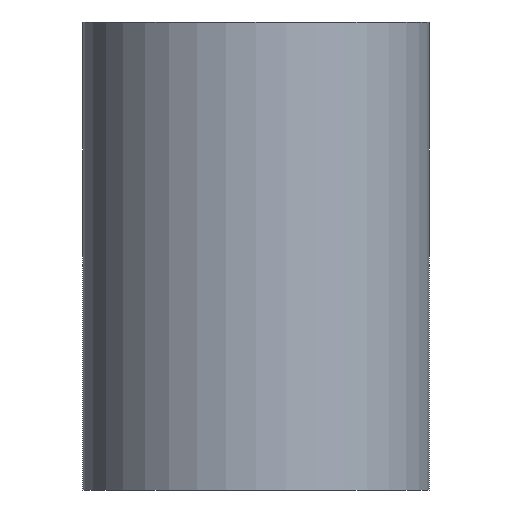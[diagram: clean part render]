
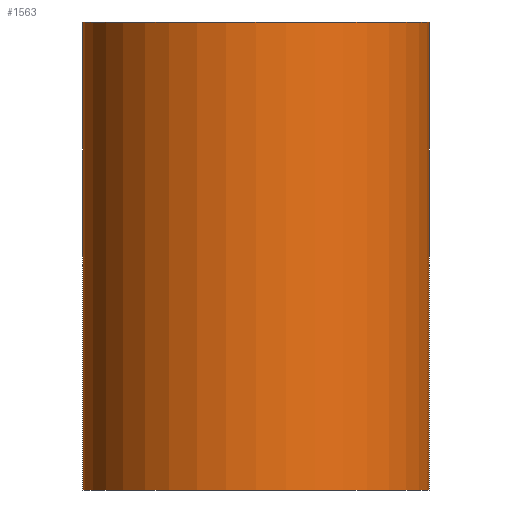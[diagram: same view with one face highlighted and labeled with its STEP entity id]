
A CAD part, front view. The second image highlights one B-rep face of the part: STEP entity #1563.
In plain terms, the highlighted cylindrical face has radius 18.5 mm (diameter 37 mm), a full revolution.
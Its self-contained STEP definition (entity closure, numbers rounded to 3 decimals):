
#26=CYLINDRICAL_SURFACE('',#1688,18.5);
#39=FACE_BOUND('',#240,.T.);
#58=CIRCLE('',#1671,18.5);
#59=CIRCLE('',#1674,18.5);
#66=CIRCLE('',#1689,18.5);
#67=CIRCLE('',#1690,18.5);
#146=FACE_OUTER_BOUND('',#239,.T.);
#239=EDGE_LOOP('',(#1339,#1340,#1341,#1342));
#240=EDGE_LOOP('',(#1343,#1344,#1345,#1346));
#413=LINE('',#2466,#592);
#418=LINE('',#2477,#597);
#423=LINE('',#2504,#602);
#592=VECTOR('',#2037,10.);
#597=VECTOR('',#2048,10.);
#602=VECTOR('',#2081,18.5);
#720=VERTEX_POINT('',#2456);
#721=VERTEX_POINT('',#2457);
#724=VERTEX_POINT('',#2465);
#726=VERTEX_POINT('',#2471);
#734=VERTEX_POINT('',#2501);
#735=VERTEX_POINT('',#2503);
#917=EDGE_CURVE('',#720,#721,#58,.T.);
#921=EDGE_CURVE('',#724,#720,#413,.T.);
#924=EDGE_CURVE('',#726,#724,#59,.T.);
#927=EDGE_CURVE('',#721,#726,#418,.T.);
#938=EDGE_CURVE('',#734,#734,#66,.T.);
#939=EDGE_CURVE('',#734,#735,#423,.T.);
#940=EDGE_CURVE('',#735,#735,#67,.T.);
#1339=ORIENTED_EDGE('',*,*,#938,.T.);
#1340=ORIENTED_EDGE('',*,*,#939,.T.);
#1341=ORIENTED_EDGE('',*,*,#940,.F.);
#1342=ORIENTED_EDGE('',*,*,#939,.F.);
#1343=ORIENTED_EDGE('',*,*,#921,.T.);
#1344=ORIENTED_EDGE('',*,*,#917,.T.);
#1345=ORIENTED_EDGE('',*,*,#927,.T.);
#1346=ORIENTED_EDGE('',*,*,#924,.T.);
#1563=ADVANCED_FACE('',(#146,#39),#26,.T.);
#1671=AXIS2_PLACEMENT_3D('',#2458,#2030,#2031);
#1674=AXIS2_PLACEMENT_3D('',#2472,#2042,#2043);
#1688=AXIS2_PLACEMENT_3D('',#2500,#2077,#2078);
#1689=AXIS2_PLACEMENT_3D('',#2502,#2079,#2080);
#1690=AXIS2_PLACEMENT_3D('',#2505,#2082,#2083);
#2030=DIRECTION('center_axis',(0.,0.,1.));
#2031=DIRECTION('ref_axis',(-1.,0.,0.));
#2037=DIRECTION('',(0.,0.,1.));
#2042=DIRECTION('center_axis',(0.,0.,-1.));
#2043=DIRECTION('ref_axis',(-1.,0.,0.));
#2048=DIRECTION('',(0.,0.,-1.));
#2077=DIRECTION('center_axis',(0.,0.,1.));
#2078=DIRECTION('ref_axis',(-1.,0.,0.));
#2079=DIRECTION('center_axis',(0.,0.,-1.));
#2080=DIRECTION('ref_axis',(-1.,0.,0.));
#2081=DIRECTION('',(0.,0.,-1.));
#2082=DIRECTION('center_axis',(0.,0.,-1.));
#2083=DIRECTION('ref_axis',(-1.,0.,0.));
#2456=CARTESIAN_POINT('',(14.,12.093,47.4));
#2457=CARTESIAN_POINT('',(-14.,12.093,47.4));
#2458=CARTESIAN_POINT('Origin',(0.,0.,47.4));
#2465=CARTESIAN_POINT('',(14.,12.093,19.4));
#2466=CARTESIAN_POINT('',(14.,12.093,0.));
#2471=CARTESIAN_POINT('',(-14.,12.093,19.4));
#2472=CARTESIAN_POINT('Origin',(0.,0.,19.4));
#2477=CARTESIAN_POINT('',(-14.,12.093,0.));
#2500=CARTESIAN_POINT('Origin',(0.,0.,0.));
#2501=CARTESIAN_POINT('',(18.5,0.,50.));
#2502=CARTESIAN_POINT('Origin',(0.,0.,50.));
#2503=CARTESIAN_POINT('',(18.5,0.,0.));
#2504=CARTESIAN_POINT('',(18.5,0.,0.));
#2505=CARTESIAN_POINT('Origin',(0.,0.,0.));
